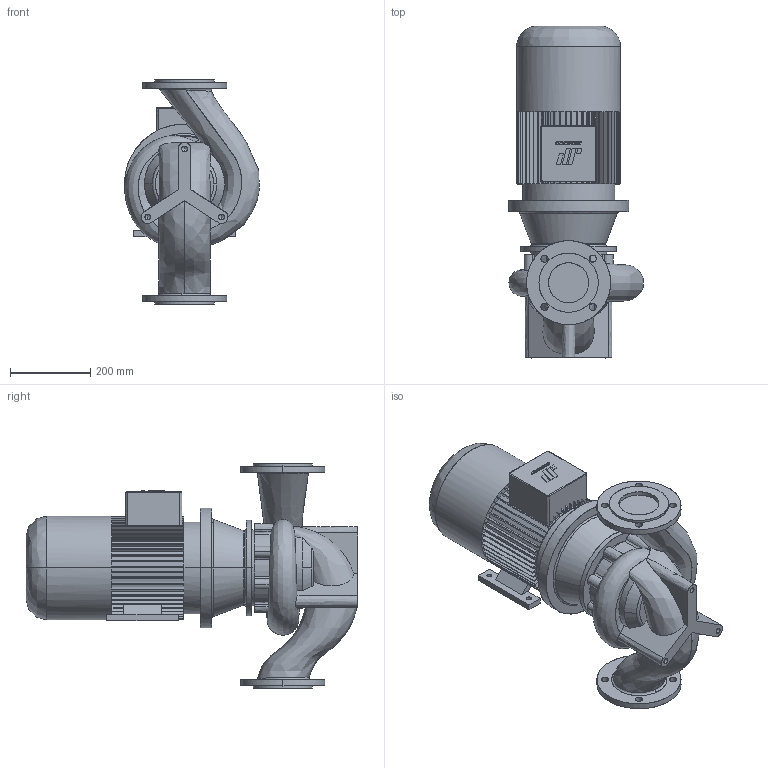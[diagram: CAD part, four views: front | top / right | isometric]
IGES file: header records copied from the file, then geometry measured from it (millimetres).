
Start section: CombiLine
Global section: file name: CLB_100-160_IEC132S.igs; native system:  By UGS Corp.; preprocessor: XPlus GENERIC/IGES 3.0; author: Stageplaats; organization: Johnson Pump Water B.V.; date: 20070716.084738; units: millimetre
Bounding box: 337.13 x 829 x 560 mm (x, y, z)
Surface area: 1477657.8 mm2 (no closed solid volume)
Topology: 0 solids, 0 shells, 583 faces, 3545 edges, 3539 vertices
Faces by surface type: bspline 583
